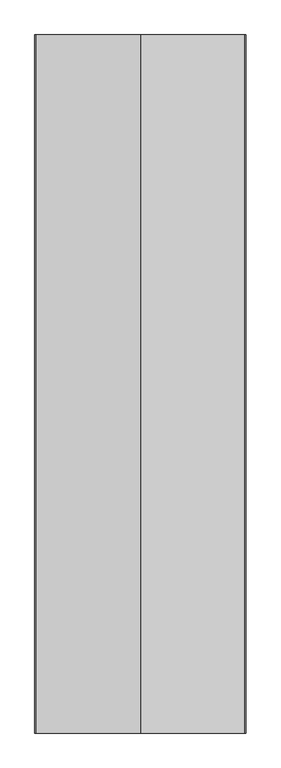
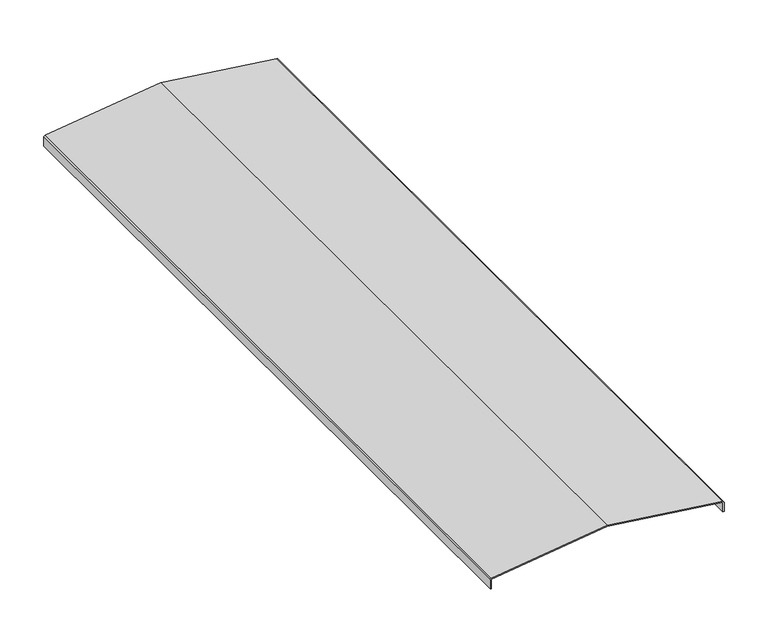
"""IFC4 building model written with IfcOpenShell, lengths in millimetres: proxy geometry, Cable_Ladder_Cover_T2AI_Basortrav : Basortrav T2AI 12 3M."""

from ifc_helpers import new_model, si_unit, point, frame, frame_2d, origin, place, context, project, spatial, polyline, circle_curve, trimmed, segment, composite_curve, outline, extrude, source, transform, mapped, element, save


def generic_models_fe180117(model_context):
    return source(origin(), model_context, "Body", "SweptSolid", [
        extrude(outline(composite_curve([segment(polyline([(-11.5, -153.9), (-11.5, -152.4), (1.5, -152.4), (21.5638406, 0.0), (1.5, 152.4), (-11.5, 152.4), (-11.5, 153.9), (1.0615118, 153.9)]), True, "CONTINUOUS"), segment(trimmed(circle_curve(frame_2d((1.0615118, 151.9)), 2.0), [point((1.0615118, 153.9))], [point((3.0444015, 152.1610524))], False, "CARTESIAN"), True, "CONTINUOUS"), segment(polyline([(3.0444015, 152.1610524), (23.0767841, 0.0), (3.0444015, -152.1610524)]), True, "CONTINUOUS"), segment(trimmed(circle_curve(frame_2d((1.0615118, -151.9)), 2.0), [point((3.0444015, -152.1610524))], [point((1.0615118, -153.9))], False, "CARTESIAN"), True, "CONTINUOUS"), segment(polyline([(1.0615118, -153.9), (-11.5, -153.9)]), True, "CONTINUOUS")], self_intersect=False)), frame((0.0, 0.0, 0.0), z_axis=(0.0, 1.0, 0.0), x_axis=(0.0, 0.0, 1.0)), (0.0, 0.0, 1.0), 1016.0),
    ])


if __name__ == "__main__":
    model = new_model("IFC4")
    model_context = context("Model", 3, world=origin())
    ifc_project = project(units=[si_unit("LENGTHUNIT", "METRE", prefix="MILLI")], contexts=[model_context])
    site = spatial("IfcSite", under=ifc_project)
    building = spatial("IfcBuilding", under=site)
    placement = place(None, origin())
    generic_models_shape = generic_models_fe180117(model_context)
    element("IfcBuildingElementProxy", 1, Name="Cable_Ladder_Cover_T2AI_Basortrav : Basortrav T2AI 12 3M", ObjectType="Cable_Ladder_Cover_T2AI_Basortrav : Basortrav T2AI 12 3M", at=placement, inside=building, context=model_context, shape_type="MappedRepresentation", body=[
        mapped(generic_models_shape, transform((0.0, 0.0, 0.0), x_axis=(1.0, 0.0, 0.0), y_axis=(0.0, 1.0, 0.0), z_axis=(0.0, 0.0, 1.0))),
    ])
    save(model, "model.ifc")
